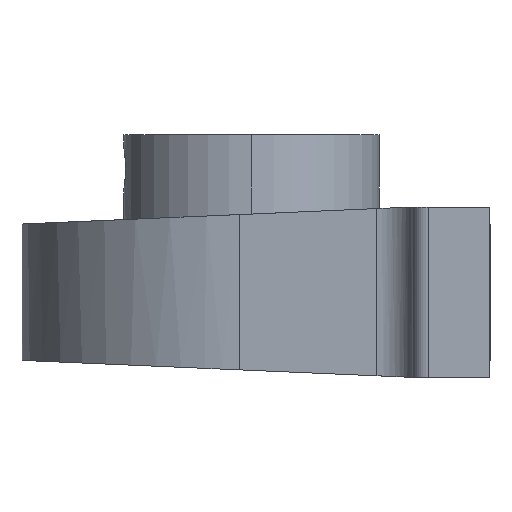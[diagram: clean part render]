
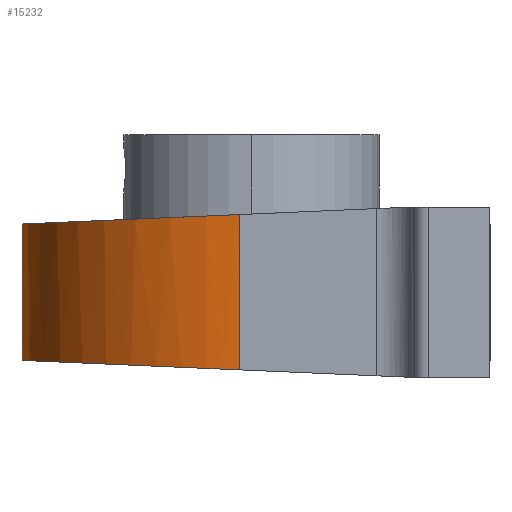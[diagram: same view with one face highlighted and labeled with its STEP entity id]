
A CAD part, left-side view. The second image highlights one B-rep face of the part: STEP entity #15232.
In plain terms, the highlighted cylindrical face has radius 27 mm (diameter 54 mm), a partial arc.
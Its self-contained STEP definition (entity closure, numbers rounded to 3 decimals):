
#78 = ORIENTED_EDGE ( 'NONE', *, *, #9562, .F. ) ;
#244 = LINE ( 'NONE', #4075, #7823 ) ;
#387 = CARTESIAN_POINT ( 'NONE',  ( 64.408, 78.162, 6.993 ) ) ;
#468 = CARTESIAN_POINT ( 'NONE',  ( 66.963, 29.413, 9.112 ) ) ;
#543 = DIRECTION ( 'NONE',  ( 0., 0., -1. ) ) ;
#724 = EDGE_LOOP ( 'NONE', ( #10674, #78, #9140, #14953 ) ) ;
#1300 = CARTESIAN_POINT ( 'NONE',  ( 64.408, 78.162, -6.993 ) ) ;
#1439 = VECTOR ( 'NONE', #543, 1000. ) ;
#1549 = CYLINDRICAL_SURFACE ( 'NONE', #8301, 27. ) ;
#1683 = CARTESIAN_POINT ( 'NONE',  ( 66.963, 29.413, 0. ) ) ;
#1712 = DIRECTION ( 'NONE',  ( 0., 0., -1. ) ) ;
#3044 = CARTESIAN_POINT ( 'NONE',  ( 13.037, 29.413, -9.112 ) ) ;
#4075 = CARTESIAN_POINT ( 'NONE',  ( 13.037, 29.413, 0. ) ) ;
#5134 = CARTESIAN_POINT ( 'NONE',  ( 13.037, 29.413, -9.112 ) ) ;
#5296 = CARTESIAN_POINT ( 'NONE',  ( 66.963, 29.413, -9.112 ) ) ;
#5788 =( BOUNDED_CURVE ( )  B_SPLINE_CURVE ( 3, ( #5296, #1300, #11400, #5134 ),
 .UNSPECIFIED., .F., .T. ) 
 B_SPLINE_CURVE_WITH_KNOTS ( ( 4, 4 ),
 ( 1.623, 4.66 ),
 .UNSPECIFIED. ) 
 CURVE ( )  GEOMETRIC_REPRESENTATION_ITEM ( )  RATIONAL_B_SPLINE_CURVE ( ( 1., 0.368, 0.368, 1. ) ) 
 REPRESENTATION_ITEM ( '' )  );
#7227 = EDGE_CURVE ( 'NONE', #12300, #8521, #9111, .T. ) ;
#7449 = CARTESIAN_POINT ( 'NONE',  ( 13.037, 29.413, 9.112 ) ) ;
#7823 = VECTOR ( 'NONE', #1712, 1000. ) ;
#7882 = CARTESIAN_POINT ( 'NONE',  ( 15.592, 78.162, 6.993 ) ) ;
#7939 = EDGE_CURVE ( 'NONE', #8521, #8092, #5788, .T. ) ;
#8092 = VERTEX_POINT ( 'NONE', #3044 ) ;
#8301 = AXIS2_PLACEMENT_3D ( 'NONE', #11332, #11261, #12633 ) ;
#8521 = VERTEX_POINT ( 'NONE', #12104 ) ;
#9111 = LINE ( 'NONE', #1683, #1439 ) ;
#9140 = ORIENTED_EDGE ( 'NONE', *, *, #14116, .T. ) ;
#9562 = EDGE_CURVE ( 'NONE', #10274, #8092, #244, .T. ) ;
#10274 = VERTEX_POINT ( 'NONE', #7449 ) ;
#10674 = ORIENTED_EDGE ( 'NONE', *, *, #7939, .T. ) ;
#11261 = DIRECTION ( 'NONE',  ( 0., 0., 1. ) ) ;
#11332 = CARTESIAN_POINT ( 'NONE',  ( 40., 28., 10. ) ) ;
#11400 = CARTESIAN_POINT ( 'NONE',  ( 15.592, 78.162, -6.993 ) ) ;
#11632 = CARTESIAN_POINT ( 'NONE',  ( 13.037, 29.413, 9.112 ) ) ;
#11925 =( BOUNDED_CURVE ( )  B_SPLINE_CURVE ( 3, ( #11632, #7882, #387, #468 ),
 .UNSPECIFIED., .F., .T. ) 
 B_SPLINE_CURVE_WITH_KNOTS ( ( 4, 4 ),
 ( 1.623, 4.66 ),
 .UNSPECIFIED. ) 
 CURVE ( )  GEOMETRIC_REPRESENTATION_ITEM ( )  RATIONAL_B_SPLINE_CURVE ( ( 1., 0.368, 0.368, 1. ) ) 
 REPRESENTATION_ITEM ( '' )  );
#12104 = CARTESIAN_POINT ( 'NONE',  ( 66.963, 29.413, -9.112 ) ) ;
#12300 = VERTEX_POINT ( 'NONE', #13909 ) ;
#12633 = DIRECTION ( 'NONE',  ( 1., 0., 0. ) ) ;
#13864 = FACE_OUTER_BOUND ( 'NONE', #724, .T. ) ;
#13909 = CARTESIAN_POINT ( 'NONE',  ( 66.963, 29.413, 9.112 ) ) ;
#14116 = EDGE_CURVE ( 'NONE', #10274, #12300, #11925, .T. ) ;
#14953 = ORIENTED_EDGE ( 'NONE', *, *, #7227, .T. ) ;
#15232 = ADVANCED_FACE ( 'NONE', ( #13864 ), #1549, .T. ) ;
